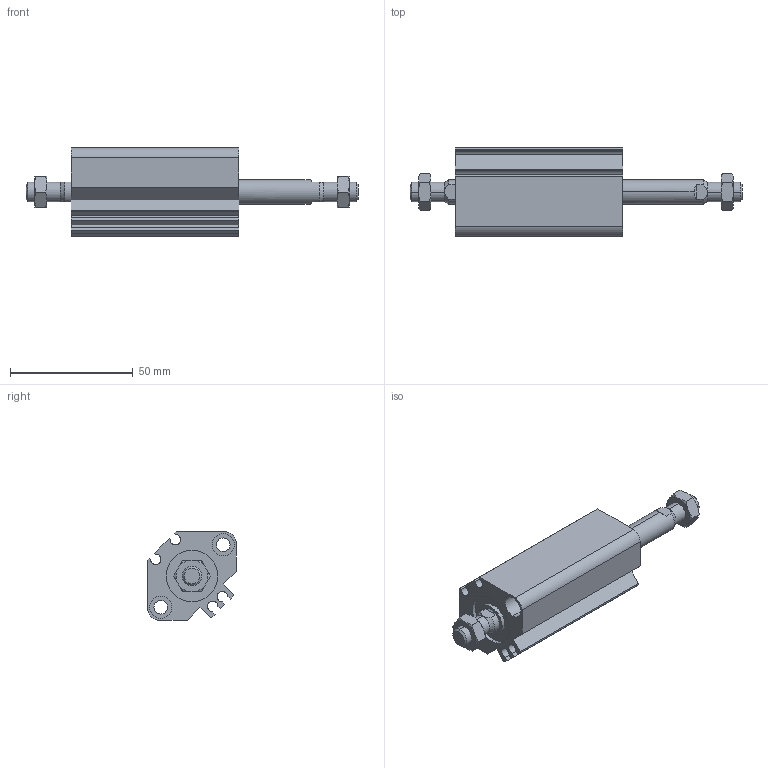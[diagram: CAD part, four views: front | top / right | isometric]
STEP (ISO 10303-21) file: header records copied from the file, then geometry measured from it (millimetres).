
FILE_DESCRIPTION (( 'STEP AP203' ), '1' );
FILE_NAME ('CCMB20-30M-P.STEP', '2020-08-10T11:21:36', ( '' ), ( '' ), 'SwSTEP 2.0', 'SolidWorks 2019', '' );
FILE_SCHEMA (( 'CONFIG_CONTROL_DESIGN' ));
Length unit declared in the file: millimetre
Products named in the file (1): CCMB20-30M-P
Bounding box: 135 x 36 x 36 mm (x, y, z)
Volume: 64094.6 mm3; surface area: 26856.8 mm2
Topology: 4 solids, 4 shells, 166 faces, 384 edges, 240 vertices
Faces by surface type: plane 66, cylinder 56, cone 44
Entity records: 5367 total; most frequent: CARTESIAN_POINT 1507, DIRECTION 806, ORIENTED_EDGE 768, EDGE_CURVE 384, AXIS2_PLACEMENT_3D 319, VERTEX_POINT 240, EDGE_LOOP 190, VECTOR 168
